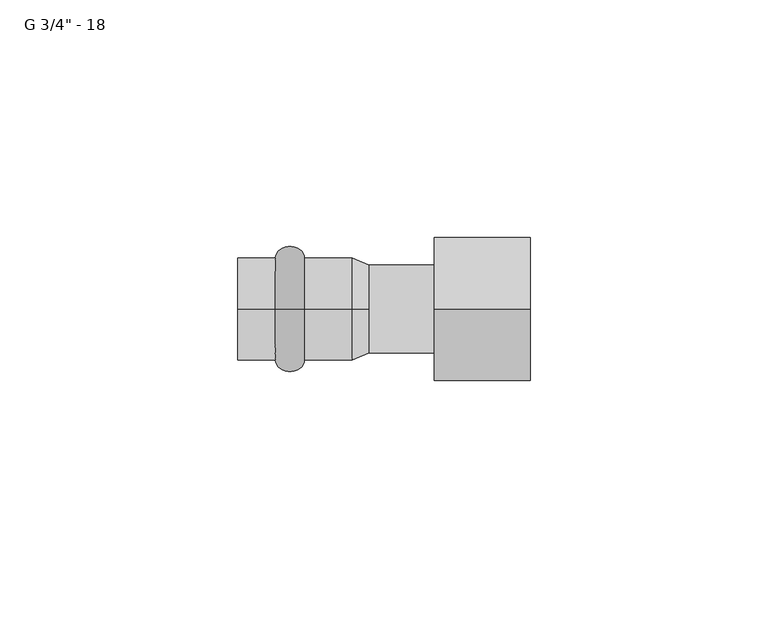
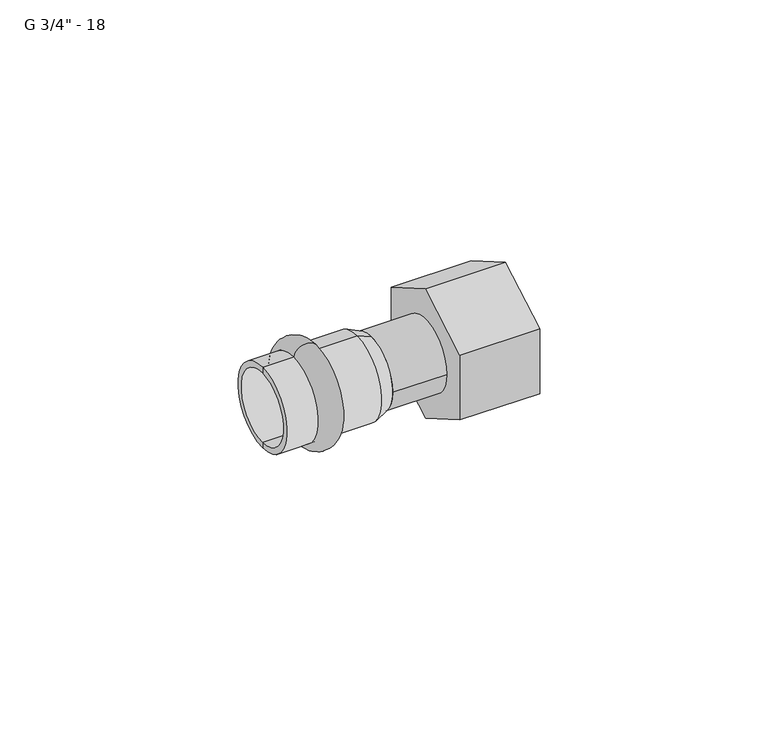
"""IFC4 building model written with IfcOpenShell, lengths in millimetres: pipe fitting geometry."""

import ifcopenshell
import ifcopenshell.guid

model = None  # the IFC model being written
_history = None  # IfcOwnerHistory: only IFC2X3 demands one
_inside = {}  # id of a spatial element -> (the spatial element, [elements in it])
_under = {}  # id of a project, library or spatial element -> (it, [spatial elements below it])
_declared = {}  # id of a project -> (the project, [libraries it declares])
_typed = {}  # id of a type object -> (the type object, [elements of that type])
_made_of = {}  # id of a material, layer set ... -> (it, [elements and type objects made of it])


def new_model(schema):
    """Start an empty IFC model of exactly this schema.

    Asked for "IFC4X3", IfcOpenShell would pick the latest addendum, in which some entities
    have other attributes; the version numbers below select the first issue.
    IFC2X3 requires an IfcOwnerHistory on every rooted entity: one is made here for all.
    """
    global model, _history
    if schema == "IFC4X3":
        model = ifcopenshell.file(schema_version=(4, 3, 0, 0))
    else:
        model = ifcopenshell.file(schema=schema)
    _inside.clear()
    _under.clear()
    _declared.clear()
    _typed.clear()
    _made_of.clear()
    _history = None
    if model.schema == "IFC2X3":
        org = make("IfcOrganization", Name="unknown")
        user = make(
            "IfcPersonAndOrganization",
            ThePerson=make("IfcPerson", FamilyName="unknown"),
            TheOrganization=org,
        )
        app = make(
            "IfcApplication",
            ApplicationDeveloper=org,
            Version="unknown",
            ApplicationFullName="unknown",
            ApplicationIdentifier="unknown",
        )
        _history = make(
            "IfcOwnerHistory",
            OwningUser=user,
            OwningApplication=app,
            ChangeAction="ADDED",
            CreationDate=0,
        )
    return model


def make(cls, **values):
    """One entity of the class cls with the attributes given. An attribute that is None is left unset."""
    return model.create_entity(
        cls, **{name: value for name, value in values.items() if value is not None}
    )


def rooted(cls, **values):
    """An entity with a GlobalId (a new one), such as an element, a storey or a relation."""
    return make(cls, GlobalId=ifcopenshell.guid.new(), OwnerHistory=_history, **values)


def si_unit(unit_type, name, prefix=None):
    """IfcSIUnit, for example si_unit("LENGTHUNIT", "METRE", prefix="MILLI")."""
    return make("IfcSIUnit", UnitType=unit_type, Prefix=prefix, Name=name)


def assignment(units):
    """IfcUnitAssignment: the units of a project."""
    return None if units is None else make("IfcUnitAssignment", Units=units)


def point(xyz):
    """IfcCartesianPoint."""
    return None if xyz is None else make("IfcCartesianPoint", Coordinates=xyz)


def direction(xyz):
    """IfcDirection."""
    return None if xyz is None else make("IfcDirection", DirectionRatios=xyz)


def frame(location, z_axis=None, x_axis=None):
    """IfcAxis2Placement3D, a coordinate frame: its origin and axes. An axis left out is left unset."""
    return make(
        "IfcAxis2Placement3D",
        Location=point(location),
        Axis=direction(z_axis),
        RefDirection=direction(x_axis),
    )


def frame_2d(location, x_axis=None):
    """IfcAxis2Placement2D, a coordinate frame in the plane: its origin and x axis."""
    return make(
        "IfcAxis2Placement2D", Location=point(location), RefDirection=direction(x_axis)
    )


def origin():
    """The frame at (0, 0, 0) with its axes left unset."""
    return frame((0.0, 0.0, 0.0))


def origin_2d():
    """The frame at (0, 0) in the plane with its x axis left unset."""
    return frame_2d((0.0, 0.0))


def place(relative_to, where):
    """IfcLocalPlacement: puts the frame where relative to a parent placement (None: the world)."""
    return make(
        "IfcLocalPlacement", PlacementRelTo=relative_to, RelativePlacement=where
    )


def context(
    kind, dimensions, precision=None, world=None, true_north=None, identifier=None
):
    """IfcGeometricRepresentationContext, for example the 3D "Model" context."""
    return make(
        "IfcGeometricRepresentationContext",
        ContextIdentifier=identifier,
        ContextType=kind,
        CoordinateSpaceDimension=dimensions,
        Precision=precision,
        WorldCoordinateSystem=world,
        TrueNorth=true_north,
    )


def project(units=None, contexts=None):
    """IfcProject with its units and contexts."""
    return rooted(
        "IfcProject",
        Name="project",
        RepresentationContexts=contexts,
        UnitsInContext=assignment(units),
    )


def spatial(cls, under=None, at=None, **own):
    """A site, building, storey or space (cls), placed at a placement, below another one or the project."""
    s = rooted(cls, ObjectPlacement=at, **own)
    if under is not None:
        _under.setdefault(under.id(), (under, []))[1].append(s)
    return s


def polyline(points):
    """IfcPolyline through the points."""
    return make("IfcPolyline", Points=[point(p) for p in points])


def circle_curve(where, radius):
    """IfcCircle in the frame where."""
    return make("IfcCircle", Position=where, Radius=radius)


def ellipse_curve(where, semi_axis1, semi_axis2):
    """IfcEllipse in the frame where."""
    return make(
        "IfcEllipse", Position=where, SemiAxis1=semi_axis1, SemiAxis2=semi_axis2
    )


def trimmed(basis, trim1, trim2, sense, master):
    """IfcTrimmedCurve: the piece of a basis curve between two trims."""
    return make(
        "IfcTrimmedCurve",
        BasisCurve=basis,
        Trim1=trim1,
        Trim2=trim2,
        SenseAgreement=sense,
        MasterRepresentation=master,
    )


def segment(curve, same_sense, transition):
    """IfcCompositeCurveSegment."""
    return make(
        "IfcCompositeCurveSegment",
        Transition=transition,
        SameSense=same_sense,
        ParentCurve=curve,
    )


def composite_curve(segments, self_intersect=None):
    """IfcCompositeCurve: segments joined end to end."""
    return make("IfcCompositeCurve", Segments=segments, SelfIntersect=self_intersect)


def outline(outer, holes=None, kind="AREA"):
    """IfcArbitraryClosedProfileDef: a profile drawn as a closed curve; with holes, ...WithVoids."""
    if holes is None:
        return make("IfcArbitraryClosedProfileDef", ProfileType=kind, OuterCurve=outer)
    return make(
        "IfcArbitraryProfileDefWithVoids",
        ProfileType=kind,
        OuterCurve=outer,
        InnerCurves=holes,
    )


def extrude(swept, where, along, depth):
    """IfcExtrudedAreaSolid: the profile swept, set in the frame where, extruded along a direction by depth."""
    return make(
        "IfcExtrudedAreaSolid",
        SweptArea=swept,
        Position=where,
        ExtrudedDirection=direction(along),
        Depth=depth,
    )


def shape(context_of_items, identifier, shape_type, items):
    """IfcShapeRepresentation: the items that make up one representation, for example the "Body"."""
    return make(
        "IfcShapeRepresentation",
        ContextOfItems=context_of_items,
        RepresentationIdentifier=identifier,
        RepresentationType=shape_type,
        Items=items,
    )


def source(mapping_origin, context_of_items, identifier, shape_type, items):
    """IfcRepresentationMap: a shape defined once, which mapped items show again and again."""
    return make(
        "IfcRepresentationMap",
        MappingOrigin=mapping_origin,
        MappedRepresentation=shape(context_of_items, identifier, shape_type, items),
    )


def transform(
    local_origin,
    x_axis=None,
    y_axis=None,
    z_axis=None,
    scale=None,
    scale2=None,
    scale3=None,
    uniform=True,
):
    """IfcCartesianTransformationOperator3D, or its non-uniform kind. x_axis, y_axis, z_axis: its Axis1, 2, 3."""
    if uniform:
        return make(
            "IfcCartesianTransformationOperator3D",
            Axis1=direction(x_axis),
            Axis2=direction(y_axis),
            LocalOrigin=point(local_origin),
            Scale=scale,
            Axis3=direction(z_axis),
        )
    return make(
        "IfcCartesianTransformationOperator3DnonUniform",
        Axis1=direction(x_axis),
        Axis2=direction(y_axis),
        LocalOrigin=point(local_origin),
        Scale=scale,
        Axis3=direction(z_axis),
        Scale2=scale2,
        Scale3=scale3,
    )


def mapped(mapping_source, mapping_target):
    """IfcMappedItem: shows the shape of a source again, moved by a transform."""
    return make(
        "IfcMappedItem", MappingSource=mapping_source, MappingTarget=mapping_target
    )


def made_of(thing, what):
    """Note that an element or type object is made of a material, layer set ...; save() writes the relation."""
    if what is not None:
        _made_of.setdefault(what.id(), (what, []))[1].append(thing)
    return thing


def element(
    cls,
    number,
    at=None,
    inside=None,
    cuts=None,
    type_object=None,
    material=None,
    context=None,
    identifier="Body",
    shape_type=None,
    held_by="IfcProductDefinitionShape",
    body=None,
    shapes=None,
    **own,
):
    """One element of the class cls, such as IfcWall. Its Tag is "e" and its number.

    at: its placement. inside: the storey or other place that contains it. cuts: it is an
    opening in that element (IfcRelVoidsElement). A single representation is given by context,
    identifier, shape_type and body (its items); several are given by shapes. held_by: the class
    of the entity that holds the representations. save() writes the other relations.
    """
    e = rooted(cls, Tag="e%d" % number, ObjectPlacement=at, **own)
    if body is not None:
        shapes = [shape(context, identifier, shape_type, body)]
    if shapes is not None:
        e.Representation = make(held_by, Representations=shapes)
    if inside is not None:
        _inside.setdefault(inside.id(), (inside, []))[1].append(e)
    if cuts is not None:
        rooted(
            "IfcRelVoidsElement", RelatingBuildingElement=cuts, RelatedOpeningElement=e
        )
    if type_object is not None:
        _typed.setdefault(type_object.id(), (type_object, []))[1].append(e)
    return made_of(e, material)


def aggregate(whole, parts):
    """IfcRelAggregates: a whole, such as a stair, and the parts it consists of."""
    return rooted("IfcRelAggregates", RelatingObject=whole, RelatedObjects=parts)


def save(model, path):
    """Write the relations noted so far, then the file.

    IfcRelAggregates (storeys below a building ...), IfcRelContainedInSpatialStructure (elements
    in a storey), IfcRelDefinesByType, IfcRelAssociatesMaterial and IfcRelDeclares: one each for
    every whole, place, type object, material and project.
    """
    for whole, parts in _under.values():
        aggregate(whole, parts)
    for where, things in _inside.values():
        rooted(
            "IfcRelContainedInSpatialStructure",
            RelatedElements=things,
            RelatingStructure=where,
        )
    for kind, things in _typed.values():
        rooted("IfcRelDefinesByType", RelatedObjects=things, RelatingType=kind)
    for what, things in _made_of.values():
        rooted("IfcRelAssociatesMaterial", RelatedObjects=things, RelatingMaterial=what)
    for by, libraries in _declared.values():
        rooted("IfcRelDeclares", RelatingContext=by, RelatedDefinitions=libraries)
    model.write(path)


def plane_surface(at):
    """IfcPlane: the flat surface through the origin of the frame at, square to its z axis."""
    return make("IfcPlane", Position=at)


def cylinder_surface(at, radius):
    """IfcCylindricalSurface: all points at the distance radius from the z axis of the frame at."""
    return make("IfcCylindricalSurface", Position=at, Radius=radius)


def revolved_surface(curve, axis_point, axis_direction):
    """IfcSurfaceOfRevolution: the curve turned about the line through axis_point along axis_direction."""
    return make(
        "IfcSurfaceOfRevolution",
        SweptCurve=make("IfcArbitraryOpenProfileDef", ProfileType="CURVE", Curve=curve),
        AxisPosition=make("IfcAxis1Placement", Location=point(axis_point), Axis=direction(axis_direction)),
    )


def advanced_brep(points, edges, surfaces, faces):
    """IfcAdvancedBrep: a solid bounded by faces that lie on surfaces and meet in shared edges.

    An edge is (start, end): straight between two places in points (the first is 0);
    or (start, end, curve); or (start, end, curve, False) where it runs against its curve.
    A face is (place in surfaces, loops), or (place, loops, False) where it looks against
    its surface's normal. A loop lists edges by number (the first is 1), with a minus sign
    where the edge is run from its end to its start. The first loop is the outer one.
    """
    corners = [point(p) for p in points]
    vertices = [make("IfcVertexPoint", VertexGeometry=c) for c in corners]
    made = []
    for start, end, *more in edges:
        made.append(
            make(
                "IfcEdgeCurve",
                EdgeStart=vertices[start],
                EdgeEnd=vertices[end],
                EdgeGeometry=more[0] if more else make("IfcPolyline", Points=[corners[start], corners[end]]),
                SameSense=more[1] if len(more) > 1 else True,
            )
        )
    hull = []
    for where, loops, *sense in faces:
        bounds = []
        for j, loop in enumerate(loops):
            ring = [make("IfcOrientedEdge", EdgeElement=made[abs(k) - 1], Orientation=k > 0) for k in loop]
            bounds.append(
                make(
                    "IfcFaceOuterBound" if j == 0 else "IfcFaceBound",
                    Bound=make("IfcEdgeLoop", EdgeList=ring),
                    Orientation=True,
                )
            )
        hull.append(make("IfcAdvancedFace", Bounds=bounds, FaceSurface=surfaces[where], SameSense=sense[0] if sense else True))
    return make("IfcAdvancedBrep", Outer=make("IfcClosedShell", CfsFaces=hull))


def pipe_fitting_59298a50(model_context):
    return source(origin(), model_context, "Body", "SolidModel", [
        advanced_brep(
        [(-16.1, 0.0, 10.75), (-16.1, 0.0, -10.75), (-10.0, 0.0, -10.75), (-10.0, 0.0, 10.75)],
        [
            (0, 1, circle_curve(frame((-16.1, 0.0, 0.0), z_axis=(-1.0, 0.0, 0.0), x_axis=(0.0, 0.0, -1.0)), 10.75)),
            (1, 2),
            (2, 3, circle_curve(frame((-10.0, 0.0, 0.0), z_axis=(1.0, 0.0, 0.0), x_axis=(0.0, 0.0, -1.0)), 10.75)),
            (3, 0),
            (1, 0, circle_curve(frame((-16.1, 0.0, 0.0), z_axis=(-1.0, 0.0, 0.0), x_axis=(0.0, 0.0, -1.0)), 10.75)),
            (3, 2, circle_curve(frame((-10.0, 0.0, 0.0), z_axis=(1.0, 0.0, 0.0), x_axis=(0.0, 0.0, -1.0)), 10.75)),
            (2, 1, ellipse_curve(frame((-13.05, 0.0, -10.75), z_axis=(0.0, 1.0, 0.0), x_axis=(-1.0, 0.0, 0.0)), 3.05, 2.5)),
            (0, 3, ellipse_curve(frame((-13.05, 0.0, 10.75), z_axis=(0.0, 1.0, 0.0), x_axis=(-1.0, 0.0, 0.0)), 3.05, 2.5)),
        ],
        [
            revolved_surface(polyline([(-10.0, 0.0, -10.75), (-16.1, 0.0, -10.75)]), (3.0, 0.0, 0.0), (1.0, 0.0, 0.0)),
            revolved_surface(trimmed(ellipse_curve(frame((-13.05, 0.0, -10.75), z_axis=(0.0, -1.0, 0.0), x_axis=(-1.0, 0.0, 0.0)), 3.05, 2.5), [point((-16.1, 0.0, -10.75))], [point((-10.0, 0.0, -10.75))], True, "CARTESIAN"), (3.0, 0.0, 0.0), (1.0, 0.0, 0.0)),
        ],
        [
            (0, [[1, 2, 3, 4]]),
            (0, [[5, -4, 6, -2]]),
            (1, [[-3, 7, -1, 8]]),
            (1, [[-6, -8, -5, -7]]),
        ],
    ),
        advanced_brep(
        [(3.5337785, 0.0, 9.25), (3.5337785, 0.0, -9.25), (0.0, 0.0, -10.75), (0.0, 0.0, 10.75), (-24.0, 0.0, 9.25), (-24.0, 0.0, -9.25), (-24.0, 0.0, 10.75), (-24.0, 0.0, -10.75)],
        [
            (0, 1, circle_curve(frame((3.5337785, 0.0, 0.0), z_axis=(-1.0, 0.0, 0.0), x_axis=(0.0, 0.0, -1.0)), 9.25)),
            (1, 2),
            (2, 3, circle_curve(frame((0.0, 0.0, 0.0), z_axis=(1.0, 0.0, 0.0), x_axis=(0.0, 0.0, -1.0)), 10.75)),
            (3, 0),
            (1, 0, circle_curve(frame((3.5337785, 0.0, 0.0), z_axis=(-1.0, 0.0, 0.0), x_axis=(0.0, 0.0, -1.0)), 9.25)),
            (3, 2, circle_curve(frame((0.0, 0.0, 0.0), z_axis=(1.0, 0.0, 0.0), x_axis=(0.0, 0.0, -1.0)), 10.75)),
            (4, 5, circle_curve(frame((-24.0, 0.0, 0.0), z_axis=(-1.0, 0.0, 0.0), x_axis=(0.0, 0.0, -1.0)), 9.25)),
            (5, 1),
            (0, 4),
            (5, 4, circle_curve(frame((-24.0, 0.0, 0.0), z_axis=(-1.0, 0.0, 0.0), x_axis=(0.0, 0.0, -1.0)), 9.25)),
            (6, 7, circle_curve(frame((-24.0, 0.0, 0.0), z_axis=(-1.0, 0.0, 0.0), x_axis=(0.0, 0.0, -1.0)), 10.75)),
            (7, 5),
            (4, 6),
            (7, 6, circle_curve(frame((-24.0, 0.0, 0.0), z_axis=(-1.0, 0.0, 0.0), x_axis=(0.0, 0.0, -1.0)), 10.75)),
            (2, 7),
            (6, 3),
        ],
        [
            revolved_surface(polyline([(0.0, 0.0, -10.75), (3.5337785, 0.0, -9.25)]), (3.0, 0.0, 0.0), (1.0, 0.0, 0.0)),
            revolved_surface(polyline([(3.5337785, 0.0, -9.25), (-24.0, 0.0, -9.25)]), (3.0, 0.0, 0.0), (1.0, 0.0, 0.0)),
            plane_surface(frame((-24.0, 0.0, 0.0), z_axis=(-1.0, 0.0, 0.0), x_axis=(0.0, 0.0, -1.0))),
            cylinder_surface(frame((3.0, 0.0, 0.0), z_axis=(1.0, 0.0, 0.0), x_axis=(0.0, 0.0, -1.0)), 10.75),
        ],
        [
            (0, [[1, 2, 3, 4]]),
            (0, [[5, -4, 6, -2]]),
            (1, [[7, 8, -1, 9]]),
            (1, [[10, -9, -5, -8]]),
            (2, [[11, 12, -7, 13]]),
            (2, [[14, -13, -10, -12]]),
            (3, [[-3, 15, -11, 16]]),
            (3, [[-6, -16, -14, -15]]),
        ],
    ),
        extrude(outline(composite_curve([segment(trimmed(circle_curve(origin_2d(), 9.25), [point((-9.25, 0.0))], [point((9.25, 0.0))], False, "CARTESIAN"), True, "CONTINUOUS"), segment(trimmed(circle_curve(origin_2d(), 9.25), [point((9.25, 0.0))], [point((-9.25, 0.0))], False, "CARTESIAN"), True, "CONTINUOUS")], self_intersect=False)), frame((3.5337785, 0.0, 0.0), z_axis=(1.0, 0.0, 0.0), x_axis=(0.0, 1.0, 0.0)), (0.0, 0.0, 1.0), 13.7),
        advanced_brep(
        [(37.4337785, -15.0, -8.660254), (17.2337785, -15.0, -8.660254), (17.2337785, 0.0, -17.3205081), (37.4337785, 0.0, -17.3205081), (17.2337785, 15.0, -8.660254), (37.4337785, 15.0, -8.660254), (37.4337785, 15.0, 8.660254), (17.2337785, 15.0, 8.660254), (17.2337785, 0.0, 17.3205081), (37.4337785, 0.0, 17.3205081), (17.2337785, -15.0, 8.660254), (37.4337785, -15.0, 8.660254), (37.4337785, -13.25, 0.0), (37.4337785, 13.25, 0.0), (17.2337785, -5.0, -2.8867513), (17.2337785, 0.0, -5.7735027), (17.2337785, 5.0, -2.8867513), (17.2337785, 5.0, 2.8867513), (17.2337785, 0.0, 5.7735027), (17.2337785, -5.0, 2.8867513), (22.0337785, -13.25, 0.0), (22.0337785, 13.25, 0.0), (22.0337785, 0.0, -5.7735027), (22.0337785, -5.0, -2.8867513), (22.0337785, -5.0, 2.8867513), (22.0337785, 0.0, 5.7735027), (22.0337785, 5.0, 2.8867513), (22.0337785, 5.0, -2.8867513)],
        [
            (0, 1),
            (1, 2),
            (2, 3),
            (3, 0),
            (2, 4),
            (4, 5),
            (5, 3),
            (6, 7),
            (7, 8),
            (8, 9),
            (9, 6),
            (8, 10),
            (10, 11),
            (11, 9),
            (4, 7),
            (6, 5),
            (11, 0),
            (12, 13, circle_curve(frame((37.4337785, 0.0, 0.0), z_axis=(-1.0, 0.0, 0.0), x_axis=(0.0, 1.0, 0.0)), 13.25)),
            (13, 12, circle_curve(frame((37.4337785, 0.0, 0.0), z_axis=(-1.0, 0.0, 0.0), x_axis=(0.0, 1.0, 0.0)), 13.25)),
            (1, 10),
            (14, 15),
            (15, 16),
            (16, 17),
            (17, 18),
            (18, 19),
            (19, 14),
            (20, 21, circle_curve(frame((22.0337785, 0.0, 0.0), z_axis=(1.0, 0.0, 0.0), x_axis=(0.0, 1.0, 0.0)), 13.25)),
            (21, 20, circle_curve(frame((22.0337785, 0.0, 0.0), z_axis=(1.0, 0.0, 0.0), x_axis=(0.0, 1.0, 0.0)), 13.25)),
            (22, 23),
            (23, 24),
            (24, 25),
            (25, 26),
            (26, 27),
            (27, 22),
            (21, 13),
            (12, 20),
            (14, 23),
            (22, 15),
            (27, 16),
            (17, 26),
            (25, 18),
            (24, 19),
        ],
        [
            plane_surface(frame((17.2337785, -15.0, -8.660254), z_axis=(0.0, -0.5000000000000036, -0.8660254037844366), x_axis=(0.0, 0.8660254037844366, -0.5000000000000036))),
            plane_surface(frame((17.2337785, 0.0, -17.3205081), z_axis=(0.0, 0.49999999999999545, -0.8660254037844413), x_axis=(0.0, 0.8660254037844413, 0.49999999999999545))),
            plane_surface(frame((17.2337785, 15.0, 8.660254), z_axis=(0.0, 0.5000000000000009, 0.8660254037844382), x_axis=(0.0, -0.8660254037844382, 0.5000000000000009))),
            plane_surface(frame((17.2337785, 0.0, 17.3205081), z_axis=(0.0, -0.4999999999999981, 0.8660254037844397), x_axis=(0.0, -0.8660254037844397, -0.4999999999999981))),
            plane_surface(frame((17.2337785, 15.0, -8.660254), z_axis=(0.0, 1.0, 0.0), x_axis=(0.0, 0.0, 1.0))),
            plane_surface(frame((37.4337785, -15.0, 8.660254), z_axis=(1.0, 0.0, 0.0), x_axis=(0.0, 0.0, -1.0))),
            plane_surface(frame((17.2337785, -5.0, 2.8867513), z_axis=(-1.0, 0.0, 0.0), x_axis=(0.0, 0.0, -1.0))),
            plane_surface(frame((17.2337785, -15.0, 8.660254), z_axis=(0.0, -1.0, 0.0), x_axis=(0.0, 0.0, -1.0))),
            plane_surface(frame((22.0337785, 13.25, 0.0), z_axis=(1.0, 0.0, 0.0), x_axis=(0.0, 0.0, -1.0))),
            revolved_surface(polyline([(37.4337785, 13.25, 0.0), (22.0337785, 13.25, 0.0)]), (22.0337785, 0.0, 0.0), (1.0, 0.0, 0.0)),
            plane_surface(frame((37.4337785, -5.0, -2.8867513), z_axis=(0.0, 0.5000000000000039, 0.8660254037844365), x_axis=(0.0, 0.8660254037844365, -0.5000000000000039))),
            plane_surface(frame((37.4337785, 0.0, -5.7735027), z_axis=(0.0, -0.49999999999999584, 0.8660254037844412), x_axis=(0.0, 0.8660254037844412, 0.49999999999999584))),
            plane_surface(frame((37.4337785, 5.0, 2.8867513), z_axis=(0.0, -0.500000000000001, -0.8660254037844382), x_axis=(0.0, -0.8660254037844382, 0.500000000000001))),
            plane_surface(frame((37.4337785, 0.0, 5.7735027), z_axis=(0.0, 0.49999999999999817, -0.8660254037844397), x_axis=(0.0, -0.8660254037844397, -0.49999999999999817))),
            plane_surface(frame((37.4337785, 5.0, -2.8867513), z_axis=(0.0, -1.0, 0.0), x_axis=(0.0, 0.0, 1.0))),
            plane_surface(frame((37.4337785, -5.0, 2.8867513), z_axis=(0.0, 1.0, 0.0), x_axis=(0.0, 0.0, -1.0))),
        ],
        [
            (0, [[1, 2, 3, 4]]),
            (1, [[-3, 5, 6, 7]]),
            (2, [[8, 9, 10, 11]]),
            (3, [[-10, 12, 13, 14]]),
            (4, [[-6, 15, -8, 16]]),
            (5, [[-4, -7, -16, -11, -14, 17], [18, 19]]),
            (6, [[-2, 20, -12, -9, -15, -5], [21, 22, 23, 24, 25, 26]]),
            (7, [[-1, -17, -13, -20]]),
            (8, [[27, 28], [29, 30, 31, 32, 33, 34]]),
            (9, [[-28, 35, -18, 36]]),
            (9, [[-27, -36, -19, -35]]),
            (10, [[-21, 37, -29, 38]]),
            (11, [[-22, -38, -34, 39]]),
            (12, [[-24, 40, -32, 41]]),
            (13, [[-25, -41, -31, 42]]),
            (14, [[-23, -39, -33, -40]]),
            (15, [[-26, -42, -30, -37]]),
        ],
    ),
    ])


if __name__ == "__main__":
    model = new_model("IFC4")
    model_context = context("Model", 3, world=origin())
    ifc_project = project(units=[si_unit("LENGTHUNIT", "METRE", prefix="MILLI")], contexts=[model_context])
    site = spatial("IfcSite", under=ifc_project)
    building = spatial("IfcBuilding", under=site)
    placement = place(None, origin())
    pipe_fitting_shape = pipe_fitting_59298a50(model_context)
    element("IfcPipeFitting", 1, ObjectType="РЕХАУ_Пресс Муфта с накидной гайкой : G 3/4\" - 18", at=placement, inside=building, context=model_context, shape_type="MappedRepresentation", body=[
        mapped(pipe_fitting_shape, transform((0.0, 0.0, 0.0), x_axis=(1.0, 0.0, 0.0), y_axis=(0.0, 1.0, 0.0), z_axis=(0.0, 0.0, 1.0))),
    ])
    save(model, "model.ifc")
